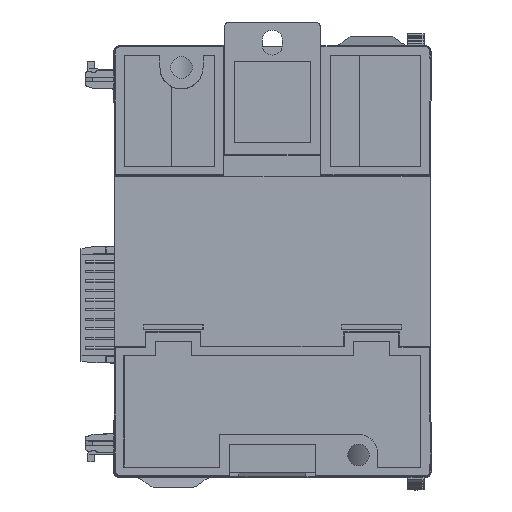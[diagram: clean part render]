
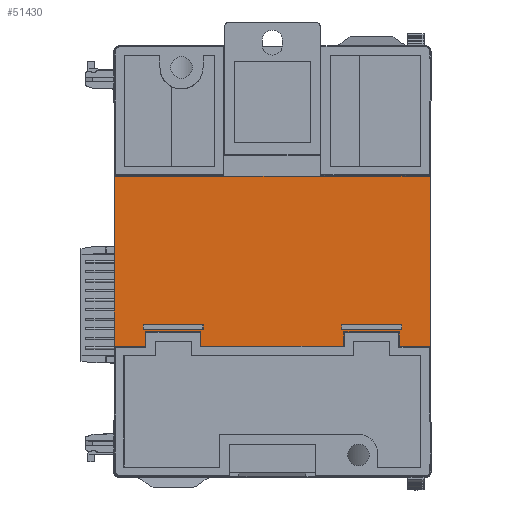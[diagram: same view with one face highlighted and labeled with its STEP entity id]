
A CAD part, top view. The second image highlights one B-rep face of the part: STEP entity #51430.
In plain terms, the highlighted planar face has unit normal (0, 0, 1).
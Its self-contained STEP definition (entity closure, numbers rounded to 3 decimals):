
#3048=DIRECTION('',(-1.,0.,0.));
#3049=VECTOR('',#3048,14.601);
#3050=CARTESIAN_POINT('',(128.601,17.75,
0.));
#3051=LINE('',#3050,#3049);
#3052=CARTESIAN_POINT('',(128.8,17.949,0.));
#3053=CARTESIAN_POINT('',(128.8,17.883,0.));
#3054=CARTESIAN_POINT('',(128.75,17.8,0.));
#3055=CARTESIAN_POINT('',(128.667,17.75,0.));
#3056=CARTESIAN_POINT('',(128.601,17.75,0.));
#3062=DIRECTION('',(0.,-1.,0.));
#3063=VECTOR('',#3062,35.899);
#3064=CARTESIAN_POINT('',(128.8,17.949,0.));
#3065=LINE('',#3064,#3063);
#3066=DIRECTION('',(0.,1.,0.));
#3067=VECTOR('',#3066,0.114);
#3068=CARTESIAN_POINT('',(109.8,-17.864,0.));
#3069=LINE('',#3068,#3067);
#3070=DIRECTION('',(-1.,0.,0.));
#3071=VECTOR('',#3070,28.);
#3072=CARTESIAN_POINT('',(109.8,-17.75,0.));
#3073=LINE('',#3072,#3071);
#3074=DIRECTION('',(0.,-1.,0.));
#3075=VECTOR('',#3074,0.114);
#3076=CARTESIAN_POINT('',(81.8,-17.75,0.));
#3077=LINE('',#3076,#3075);
#3078=DIRECTION('',(0.,1.,0.));
#3079=VECTOR('',#3078,0.114);
#3080=CARTESIAN_POINT('',(68.3,-17.864,0.));
#3081=LINE('',#3080,#3079);
#3082=DIRECTION('',(1.,0.,0.));
#3083=VECTOR('',#3082,11.725);
#3084=CARTESIAN_POINT('',(62.999,17.75,
0.));
#3085=LINE('',#3084,#3083);
#3086=DIRECTION('',(0.,-1.,0.));
#3087=VECTOR('',#3086,0.99);
#3088=CARTESIAN_POINT('',(110.292,-13.25,0.));
#3089=LINE('',#3088,#3087);
#3090=DIRECTION('',(1.,0.,0.));
#3091=VECTOR('',#3090,12.508);
#3092=CARTESIAN_POINT('',(110.292,-14.24,
0.));
#3093=LINE('',#3092,#3091);
#3094=DIRECTION('',(0.,1.,0.));
#3095=VECTOR('',#3094,0.99);
#3096=CARTESIAN_POINT('',(122.8,-14.24,0.));
#3097=LINE('',#3096,#3095);
#3098=DIRECTION('',(-1.,0.,0.));
#3099=VECTOR('',#3098,12.508);
#3100=CARTESIAN_POINT('',(122.8,-13.25,0.));
#3101=LINE('',#3100,#3099);
#3102=DIRECTION('',(0.,-1.,0.));
#3103=VECTOR('',#3102,0.99);
#3104=CARTESIAN_POINT('',(68.8,-13.25,0.));
#3105=LINE('',#3104,#3103);
#3106=DIRECTION('',(1.,0.,0.));
#3107=VECTOR('',#3106,12.508);
#3108=CARTESIAN_POINT('',(68.8,-14.24,0.));
#3109=LINE('',#3108,#3107);
#3110=DIRECTION('',(0.,1.,0.));
#3111=VECTOR('',#3110,0.99);
#3112=CARTESIAN_POINT('',(81.308,-14.24,
0.));
#3113=LINE('',#3112,#3111);
#3114=DIRECTION('',(-1.,0.,0.));
#3115=VECTOR('',#3114,12.508);
#3116=CARTESIAN_POINT('',(81.308,-13.25,0.));
#3117=LINE('',#3116,#3115);
#11257=DIRECTION('',(0.,-1.,0.));
#11258=VECTOR('',#11257,35.899);
#11259=CARTESIAN_POINT('',(62.8,17.949,
0.));
#11260=LINE('',#11259,#11258);
#12182=DIRECTION('',(1.,0.,0.));
#12183=VECTOR('',#12182,13.5);
#12184=CARTESIAN_POINT('',(109.8,-17.864,0.));
#12185=LINE('',#12184,#12183);
#12202=DIRECTION('',(0.,1.,0.));
#12203=VECTOR('',#12202,0.114);
#12204=CARTESIAN_POINT('',(123.3,-17.864,0.));
#12205=LINE('',#12204,#12203);
#12206=DIRECTION('',(1.,0.,0.));
#12207=VECTOR('',#12206,5.301);
#12208=CARTESIAN_POINT('',(123.3,-17.75,0.));
#12209=LINE('',#12208,#12207);
#12214=CARTESIAN_POINT('',(128.601,-17.75,0.));
#12215=CARTESIAN_POINT('',(128.667,-17.75,0.));
#12216=CARTESIAN_POINT('',(128.75,-17.8,0.));
#12217=CARTESIAN_POINT('',(128.8,-17.883,0.));
#12218=CARTESIAN_POINT('',(128.8,-17.949,0.));
#12725=DIRECTION('',(1.,0.,0.));
#12726=VECTOR('',#12725,13.5);
#12727=CARTESIAN_POINT('',(68.3,-17.864,0.));
#12728=LINE('',#12727,#12726);
#12796=DIRECTION('',(1.,0.,0.));
#12797=VECTOR('',#12796,5.301);
#12798=CARTESIAN_POINT('',(62.999,-17.75,0.));
#12799=LINE('',#12798,#12797);
#12804=CARTESIAN_POINT('',(62.8,-17.949,0.));
#12805=CARTESIAN_POINT('',(62.8,-17.883,0.));
#12806=CARTESIAN_POINT('',(62.85,-17.8,0.));
#12807=CARTESIAN_POINT('',(62.933,-17.75,0.));
#12808=CARTESIAN_POINT('',(62.999,-17.75,0.));
#14413=DIRECTION('',(-1.,0.,0.));
#14414=VECTOR('',#14413,39.276);
#14415=CARTESIAN_POINT('',(114.,17.75,
0.));
#14416=LINE('',#14415,#14414);
#14425=CARTESIAN_POINT('',(62.999,17.75,
0.));
#14426=CARTESIAN_POINT('',(62.962,17.75,
0.));
#14427=CARTESIAN_POINT('',(62.896,17.768,
0.));
#14428=CARTESIAN_POINT('',(62.818,17.846,
0.));
#14429=CARTESIAN_POINT('',(62.8,17.912,
0.));
#14430=CARTESIAN_POINT('',(62.8,17.949,
0.));
#38303=CARTESIAN_POINT('',(114.,17.75,
0.));
#38304=VERTEX_POINT('',#38303);
#38305=CARTESIAN_POINT('',(128.601,17.75,
0.));
#38306=VERTEX_POINT('',#38305);
#38307=VERTEX_POINT('',#3052);
#38310=CARTESIAN_POINT('',(128.8,-17.949,0.));
#38311=VERTEX_POINT('',#38310);
#38312=VERTEX_POINT('',#12214);
#38313=CARTESIAN_POINT('',(123.3,-17.75,0.));
#38314=VERTEX_POINT('',#38313);
#38315=CARTESIAN_POINT('',(123.3,-17.864,0.));
#38316=VERTEX_POINT('',#38315);
#38317=CARTESIAN_POINT('',(109.8,-17.864,0.));
#38318=VERTEX_POINT('',#38317);
#38319=CARTESIAN_POINT('',(109.8,-17.75,0.));
#38320=VERTEX_POINT('',#38319);
#38321=CARTESIAN_POINT('',(81.8,-17.75,0.));
#38322=VERTEX_POINT('',#38321);
#38323=CARTESIAN_POINT('',(81.8,-17.864,0.));
#38324=VERTEX_POINT('',#38323);
#38325=CARTESIAN_POINT('',(68.3,-17.864,0.));
#38326=VERTEX_POINT('',#38325);
#38327=CARTESIAN_POINT('',(68.3,-17.75,0.));
#38328=VERTEX_POINT('',#38327);
#38329=CARTESIAN_POINT('',(62.999,-17.75,0.));
#38330=VERTEX_POINT('',#38329);
#38331=VERTEX_POINT('',#12804);
#38332=CARTESIAN_POINT('',(62.8,17.949,
0.));
#38333=VERTEX_POINT('',#38332);
#38334=VERTEX_POINT('',#14425);
#38335=CARTESIAN_POINT('',(74.724,17.75,
0.));
#38336=VERTEX_POINT('',#38335);
#38337=CARTESIAN_POINT('',(110.292,-13.25,0.));
#38338=CARTESIAN_POINT('',(110.292,-14.24,
0.));
#38339=VERTEX_POINT('',#38337);
#38340=VERTEX_POINT('',#38338);
#38341=CARTESIAN_POINT('',(122.8,-14.24,0.));
#38342=VERTEX_POINT('',#38341);
#38343=CARTESIAN_POINT('',(122.8,-13.25,0.));
#38344=VERTEX_POINT('',#38343);
#38345=CARTESIAN_POINT('',(68.8,-13.25,0.));
#38346=CARTESIAN_POINT('',(68.8,-14.24,0.));
#38347=VERTEX_POINT('',#38345);
#38348=VERTEX_POINT('',#38346);
#38349=CARTESIAN_POINT('',(81.308,-14.24,
0.));
#38350=VERTEX_POINT('',#38349);
#38351=CARTESIAN_POINT('',(81.308,-13.25,0.));
#38352=VERTEX_POINT('',#38351);
#51369=CARTESIAN_POINT('',(65.3,17.75,0.));
#51370=DIRECTION('',(0.,0.,-1.));
#51371=DIRECTION('',(0.,-1.,0.));
#51372=AXIS2_PLACEMENT_3D('',#51369,#51370,#51371);
#51373=PLANE('',#51372);
#51374=ORIENTED_EDGE('',*,*,#51349,.F.);
#51375=ORIENTED_EDGE('',*,*,#51359,.F.);
#51377=ORIENTED_EDGE('',*,*,#51376,.T.);
#51379=ORIENTED_EDGE('',*,*,#51378,.F.);
#51381=ORIENTED_EDGE('',*,*,#51380,.F.);
#51383=ORIENTED_EDGE('',*,*,#51382,.F.);
#51385=ORIENTED_EDGE('',*,*,#51384,.F.);
#51387=ORIENTED_EDGE('',*,*,#51386,.T.);
#51389=ORIENTED_EDGE('',*,*,#51388,.T.);
#51391=ORIENTED_EDGE('',*,*,#51390,.T.);
#51393=ORIENTED_EDGE('',*,*,#51392,.F.);
#51395=ORIENTED_EDGE('',*,*,#51394,.T.);
#51397=ORIENTED_EDGE('',*,*,#51396,.F.);
#51399=ORIENTED_EDGE('',*,*,#51398,.F.);
#51401=ORIENTED_EDGE('',*,*,#51400,.F.);
#51403=ORIENTED_EDGE('',*,*,#51402,.F.);
#51405=ORIENTED_EDGE('',*,*,#51404,.T.);
#51407=ORIENTED_EDGE('',*,*,#51406,.F.);
#51408=EDGE_LOOP('',(#51374,#51375,#51377,#51379,#51381,#51383,#51385,#51387,
#51389,#51391,#51393,#51395,#51397,#51399,#51401,#51403,#51405,#51407));
#51409=FACE_OUTER_BOUND('',#51408,.F.);
#51411=ORIENTED_EDGE('',*,*,#51410,.T.);
#51413=ORIENTED_EDGE('',*,*,#51412,.T.);
#51415=ORIENTED_EDGE('',*,*,#51414,.T.);
#51417=ORIENTED_EDGE('',*,*,#51416,.T.);
#51418=EDGE_LOOP('',(#51411,#51413,#51415,#51417));
#51419=FACE_BOUND('',#51418,.F.);
#51421=ORIENTED_EDGE('',*,*,#51420,.T.);
#51423=ORIENTED_EDGE('',*,*,#51422,.T.);
#51425=ORIENTED_EDGE('',*,*,#51424,.T.);
#51427=ORIENTED_EDGE('',*,*,#51426,.T.);
#51428=EDGE_LOOP('',(#51421,#51423,#51425,#51427));
#51429=FACE_BOUND('',#51428,.F.);
#51430=ADVANCED_FACE('',(#51409,#51419,#51429),#51373,.F.);
#3057=B_SPLINE_CURVE_WITH_KNOTS('',3,(#3052,#3053,#3054,#3055,#3056),
.UNSPECIFIED.,.F.,.F.,(4,1,4),(0.,0.5,1.),.UNSPECIFIED.);
#12219=B_SPLINE_CURVE_WITH_KNOTS('',3,(#12214,#12215,#12216,#12217,#12218),
.UNSPECIFIED.,.F.,.F.,(4,1,4),(0.,0.5,1.),.UNSPECIFIED.);
#12809=B_SPLINE_CURVE_WITH_KNOTS('',3,(#12804,#12805,#12806,#12807,#12808),
.UNSPECIFIED.,.F.,.F.,(4,1,4),(0.,0.5,1.),.UNSPECIFIED.);
#14431=B_SPLINE_CURVE_WITH_KNOTS('',3,(#14425,#14426,#14427,#14428,#14429,
#14430),.UNSPECIFIED.,.F.,.F.,(4,1,1,4),(0.,0.333,
0.667,1.),.UNSPECIFIED.);
#51349=EDGE_CURVE('',#38306,#38304,#3051,.T.);
#51359=EDGE_CURVE('',#38307,#38306,#3057,.T.);
#51376=EDGE_CURVE('',#38307,#38311,#3065,.T.);
#51378=EDGE_CURVE('',#38312,#38311,#12219,.T.);
#51380=EDGE_CURVE('',#38314,#38312,#12209,.T.);
#51382=EDGE_CURVE('',#38316,#38314,#12205,.T.);
#51384=EDGE_CURVE('',#38318,#38316,#12185,.T.);
#51386=EDGE_CURVE('',#38318,#38320,#3069,.T.);
#51388=EDGE_CURVE('',#38320,#38322,#3073,.T.);
#51390=EDGE_CURVE('',#38322,#38324,#3077,.T.);
#51392=EDGE_CURVE('',#38326,#38324,#12728,.T.);
#51394=EDGE_CURVE('',#38326,#38328,#3081,.T.);
#51396=EDGE_CURVE('',#38330,#38328,#12799,.T.);
#51398=EDGE_CURVE('',#38331,#38330,#12809,.T.);
#51400=EDGE_CURVE('',#38333,#38331,#11260,.T.);
#51402=EDGE_CURVE('',#38334,#38333,#14431,.T.);
#51404=EDGE_CURVE('',#38334,#38336,#3085,.T.);
#51406=EDGE_CURVE('',#38304,#38336,#14416,.T.);
#51410=EDGE_CURVE('',#38339,#38340,#3089,.T.);
#51412=EDGE_CURVE('',#38340,#38342,#3093,.T.);
#51414=EDGE_CURVE('',#38342,#38344,#3097,.T.);
#51416=EDGE_CURVE('',#38344,#38339,#3101,.T.);
#51420=EDGE_CURVE('',#38347,#38348,#3105,.T.);
#51422=EDGE_CURVE('',#38348,#38350,#3109,.T.);
#51424=EDGE_CURVE('',#38350,#38352,#3113,.T.);
#51426=EDGE_CURVE('',#38352,#38347,#3117,.T.);
